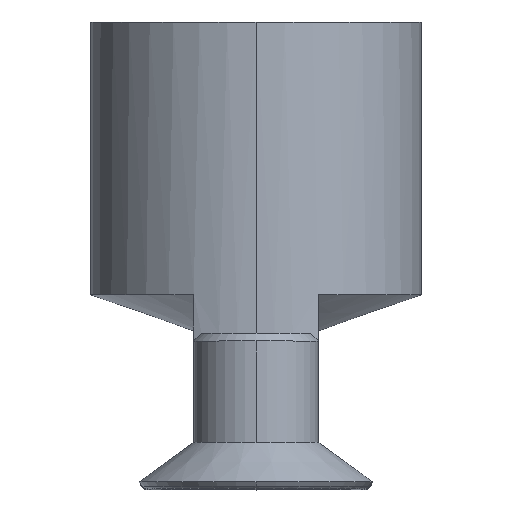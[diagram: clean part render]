
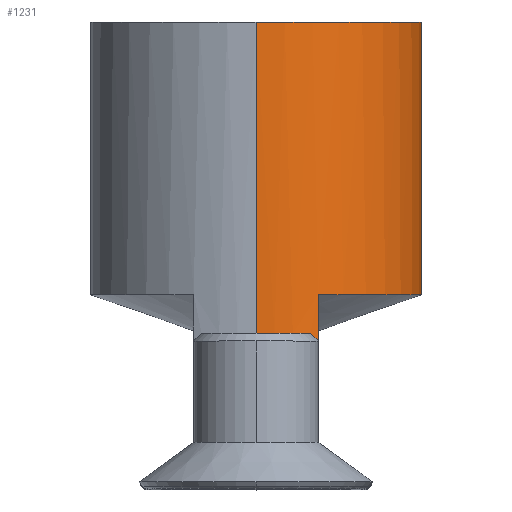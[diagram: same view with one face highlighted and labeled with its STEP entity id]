
A CAD part, top view. The second image highlights one B-rep face of the part: STEP entity #1231.
In plain terms, the highlighted cylindrical face has radius 4.25 mm (diameter 8.5 mm), a partial arc.
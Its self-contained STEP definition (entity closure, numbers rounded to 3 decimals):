
#1 = CARTESIAN_POINT ( 'NONE',  ( 1.4, 4., -4.013 ) ) ;
#4 = CARTESIAN_POINT ( 'NONE',  ( 1.535, 3.865, -3.964 ) ) ;
#35 = CARTESIAN_POINT ( 'NONE',  ( 0., 12., -4.25 ) ) ;
#46 = CARTESIAN_POINT ( 'NONE',  ( 1.6, 5., 3.937 ) ) ;
#60 = ORIENTED_EDGE ( 'NONE', *, *, #71, .T. ) ;
#71 = EDGE_CURVE ( 'NONE', #637, #1340, #622, .T. ) ;
#73 = CARTESIAN_POINT ( 'NONE',  ( 1.469, 3.931, -3.989 ) ) ;
#77 = DIRECTION ( 'NONE',  ( 0., 0., -1. ) ) ;
#86 = CYLINDRICAL_SURFACE ( 'NONE', #420, 4.25 ) ;
#90 = EDGE_CURVE ( 'NONE', #1159, #1340, #993, .T. ) ;
#126 = CARTESIAN_POINT ( 'NONE',  ( 1.6, 3.8, 3.937 ) ) ;
#127 = VERTEX_POINT ( 'NONE', #885 ) ;
#130 = CIRCLE ( 'NONE', #442, 4.25 ) ;
#133 = EDGE_CURVE ( 'NONE', #454, #480, #161, .T. ) ;
#135 = DIRECTION ( 'NONE',  ( 0., 1., 0. ) ) ;
#159 = CARTESIAN_POINT ( 'NONE',  ( 1.6, 3.111, 3.937 ) ) ;
#161 = CIRCLE ( 'NONE', #210, 4.25 ) ;
#176 = EDGE_CURVE ( 'NONE', #441, #1159, #130, .T. ) ;
#210 = AXIS2_PLACEMENT_3D ( 'NONE', #722, #714, #705 ) ;
#257 = CARTESIAN_POINT ( 'NONE',  ( 1.6, 3.8, -3.937 ) ) ;
#258 = VERTEX_POINT ( 'NONE', #257 ) ;
#284 = CARTESIAN_POINT ( 'NONE',  ( 1.6, 5., -3.937 ) ) ;
#286 = ORIENTED_EDGE ( 'NONE', *, *, #403, .T. ) ;
#329 = EDGE_CURVE ( 'NONE', #617, #454, #1173, .T. ) ;
#351 = DIRECTION ( 'NONE',  ( 0., 0., -1. ) ) ;
#360 = CARTESIAN_POINT ( 'NONE',  ( 0., 12., 0. ) ) ;
#369 = ORIENTED_EDGE ( 'NONE', *, *, #133, .F. ) ;
#403 = EDGE_CURVE ( 'NONE', #258, #480, #432, .T. ) ;
#410 = CARTESIAN_POINT ( 'NONE',  ( 1.4, 4., 4.013 ) ) ;
#416 = LINE ( 'NONE', #1470, #1007 ) ;
#420 = AXIS2_PLACEMENT_3D ( 'NONE', #360, #748, #585 ) ;
#432 = B_SPLINE_CURVE_WITH_KNOTS ( 'NONE', 3,
 ( #1079, #4, #73, #1 ),
 .UNSPECIFIED., .F., .F.,
 ( 4, 4 ),
 ( 0., 1. ),
 .UNSPECIFIED. ) ;
#433 = CARTESIAN_POINT ( 'NONE',  ( 0., 4., 0. ) ) ;
#439 = CARTESIAN_POINT ( 'NONE',  ( 0., 12., -4.25 ) ) ;
#441 = VERTEX_POINT ( 'NONE', #284 ) ;
#442 = AXIS2_PLACEMENT_3D ( 'NONE', #847, #931, #619 ) ;
#454 = VERTEX_POINT ( 'NONE', #535 ) ;
#473 = EDGE_CURVE ( 'NONE', #127, #1262, #416, .T. ) ;
#480 = VERTEX_POINT ( 'NONE', #1246 ) ;
#487 = ORIENTED_EDGE ( 'NONE', *, *, #176, .F. ) ;
#522 = EDGE_CURVE ( 'NONE', #258, #441, #687, .T. ) ;
#535 = CARTESIAN_POINT ( 'NONE',  ( 0., 4., -4.25 ) ) ;
#585 = DIRECTION ( 'NONE',  ( 0., 0., -1. ) ) ;
#598 = DIRECTION ( 'NONE',  ( 0., -1., 0. ) ) ;
#615 = CARTESIAN_POINT ( 'NONE',  ( 1.6, 3.111, -3.937 ) ) ;
#617 = VERTEX_POINT ( 'NONE', #439 ) ;
#619 = DIRECTION ( 'NONE',  ( 0., 0., -1. ) ) ;
#622 = B_SPLINE_CURVE_WITH_KNOTS ( 'NONE', 3,
 ( #1306, #1317, #1290, #126 ),
 .UNSPECIFIED., .F., .F.,
 ( 4, 4 ),
 ( 0., 1. ),
 .UNSPECIFIED. ) ;
#637 = VERTEX_POINT ( 'NONE', #410 ) ;
#681 = ORIENTED_EDGE ( 'NONE', *, *, #329, .F. ) ;
#687 = LINE ( 'NONE', #615, #962 ) ;
#702 = ORIENTED_EDGE ( 'NONE', *, *, #522, .F. ) ;
#705 = DIRECTION ( 'NONE',  ( 0., 0., -1. ) ) ;
#714 = DIRECTION ( 'NONE',  ( 0., -1., 0. ) ) ;
#722 = CARTESIAN_POINT ( 'NONE',  ( 0., 4., 0. ) ) ;
#748 = DIRECTION ( 'NONE',  ( 0., -1., 0. ) ) ;
#759 = EDGE_LOOP ( 'NONE', ( #970, #1221, #831, #60, #1071, #487, #702, #286, #369, #681 ) ) ;
#816 = CARTESIAN_POINT ( 'NONE',  ( 0., 12., 0. ) ) ;
#825 = VECTOR ( 'NONE', #598, 1000. ) ;
#829 = AXIS2_PLACEMENT_3D ( 'NONE', #433, #1021, #77 ) ;
#831 = ORIENTED_EDGE ( 'NONE', *, *, #1081, .F. ) ;
#847 = CARTESIAN_POINT ( 'NONE',  ( 0., 5., 0. ) ) ;
#884 = CIRCLE ( 'NONE', #829, 4.25 ) ;
#885 = CARTESIAN_POINT ( 'NONE',  ( 0., 12., 4.25 ) ) ;
#931 = DIRECTION ( 'NONE',  ( 0., -1., 0. ) ) ;
#962 = VECTOR ( 'NONE', #1366, 1000. ) ;
#970 = ORIENTED_EDGE ( 'NONE', *, *, #1365, .F. ) ;
#990 = CARTESIAN_POINT ( 'NONE',  ( 1.6, 3.8, 3.937 ) ) ;
#993 = LINE ( 'NONE', #159, #1210 ) ;
#1007 = VECTOR ( 'NONE', #1227, 1000. ) ;
#1021 = DIRECTION ( 'NONE',  ( 0., -1., 0. ) ) ;
#1056 = DIRECTION ( 'NONE',  ( 0., -1., 0. ) ) ;
#1071 = ORIENTED_EDGE ( 'NONE', *, *, #90, .F. ) ;
#1079 = CARTESIAN_POINT ( 'NONE',  ( 1.6, 3.8, -3.937 ) ) ;
#1081 = EDGE_CURVE ( 'NONE', #637, #1262, #884, .T. ) ;
#1159 = VERTEX_POINT ( 'NONE', #46 ) ;
#1173 = LINE ( 'NONE', #35, #825 ) ;
#1188 = FACE_OUTER_BOUND ( 'NONE', #759, .T. ) ;
#1210 = VECTOR ( 'NONE', #1056, 1000. ) ;
#1221 = ORIENTED_EDGE ( 'NONE', *, *, #473, .T. ) ;
#1227 = DIRECTION ( 'NONE',  ( 0., -1., 0. ) ) ;
#1231 = ADVANCED_FACE ( 'NONE', ( #1188 ), #86, .T. ) ;
#1246 = CARTESIAN_POINT ( 'NONE',  ( 1.4, 4., -4.013 ) ) ;
#1262 = VERTEX_POINT ( 'NONE', #1418 ) ;
#1290 = CARTESIAN_POINT ( 'NONE',  ( 1.535, 3.865, 3.964 ) ) ;
#1306 = CARTESIAN_POINT ( 'NONE',  ( 1.4, 4., 4.013 ) ) ;
#1317 = CARTESIAN_POINT ( 'NONE',  ( 1.469, 3.931, 3.989 ) ) ;
#1340 = VERTEX_POINT ( 'NONE', #990 ) ;
#1365 = EDGE_CURVE ( 'NONE', #127, #617, #1394, .T. ) ;
#1366 = DIRECTION ( 'NONE',  ( 0., 1., 0. ) ) ;
#1372 = AXIS2_PLACEMENT_3D ( 'NONE', #816, #135, #351 ) ;
#1394 = CIRCLE ( 'NONE', #1372, 4.25 ) ;
#1418 = CARTESIAN_POINT ( 'NONE',  ( 0., 4., 4.25 ) ) ;
#1470 = CARTESIAN_POINT ( 'NONE',  ( 0., 12., 4.25 ) ) ;
